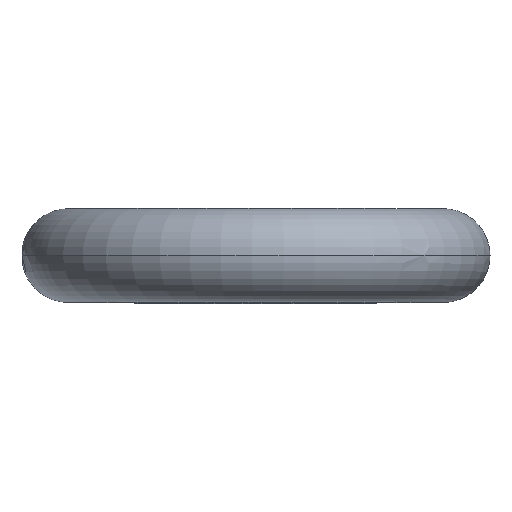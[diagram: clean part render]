
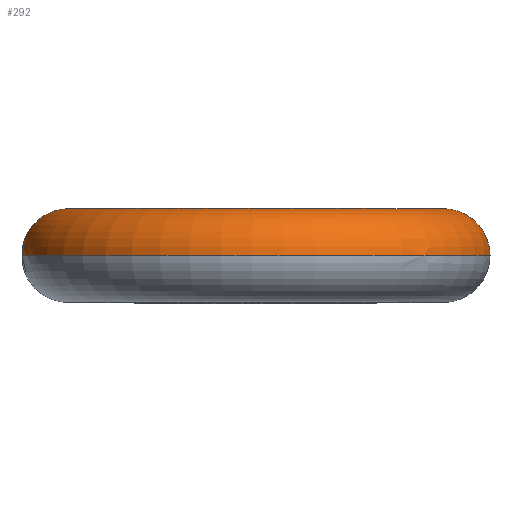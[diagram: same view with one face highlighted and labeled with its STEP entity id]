
A CAD part, top view. The second image highlights one B-rep face of the part: STEP entity #292.
In plain terms, the highlighted toroidal (fillet/blend) face has major radius 12 mm and minor radius 3 mm.
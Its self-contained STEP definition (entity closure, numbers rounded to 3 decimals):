
#8=CARTESIAN_POINT('',(-11.407,0.,31.273));
#9=DIRECTION('',(0.311,0.,-0.951));
#10=DIRECTION('',(-0.951,0.,-0.311));
#11=AXIS2_PLACEMENT_3D('',#8,#9,#10);
#22=CARTESIAN_POINT('',(11.407,0.,31.273));
#23=DIRECTION('',(0.311,0.,0.951));
#24=DIRECTION('',(0.951,0.,-0.311));
#25=AXIS2_PLACEMENT_3D('',#22,#23,#24);
#27=CARTESIAN_POINT('',(14.258,0.,30.341));
#28=CARTESIAN_POINT('',(14.502,0.,31.089));
#29=CARTESIAN_POINT('',(14.873,0.,32.622));
#30=CARTESIAN_POINT('',(15.062,0.,34.98));
#31=CARTESIAN_POINT('',(14.879,0.,37.338));
#32=CARTESIAN_POINT('',(14.33,0.,39.639));
#33=CARTESIAN_POINT('',(13.427,0.,41.825));
#34=CARTESIAN_POINT('',(12.193,0.,43.843));
#35=CARTESIAN_POINT('',(10.658,0.,45.643));
#36=CARTESIAN_POINT('',(8.86,0.,47.181));
#37=CARTESIAN_POINT('',(6.843,0.,48.417));
#38=CARTESIAN_POINT('',(4.658,0.,49.323));
#39=CARTESIAN_POINT('',(2.358,0.,49.876));
#40=CARTESIAN_POINT('',(0.,0.,50.062));
#41=CARTESIAN_POINT('',(-2.358,0.,49.876));
#42=CARTESIAN_POINT('',(-4.658,0.,49.323));
#43=CARTESIAN_POINT('',(-6.843,0.,48.417));
#44=CARTESIAN_POINT('',(-8.86,0.,47.181));
#45=CARTESIAN_POINT('',(-10.658,0.,45.643));
#46=CARTESIAN_POINT('',(-12.193,0.,43.843));
#47=CARTESIAN_POINT('',(-13.427,0.,41.825));
#48=CARTESIAN_POINT('',(-14.33,0.,39.639));
#49=CARTESIAN_POINT('',(-14.879,0.,37.338));
#50=CARTESIAN_POINT('',(-15.062,0.,34.98));
#51=CARTESIAN_POINT('',(-14.873,0.,32.622));
#52=CARTESIAN_POINT('',(-14.502,0.,31.089));
#53=CARTESIAN_POINT('',(-14.258,0.,30.341));
#174=CARTESIAN_POINT('',(8.555,0.,32.205));
#175=CARTESIAN_POINT('',(8.722,0.,32.717));
#176=CARTESIAN_POINT('',(8.965,0.,33.772));
#177=CARTESIAN_POINT('',(9.04,0.,35.394));
#178=CARTESIAN_POINT('',(8.824,0.,37.003));
#179=CARTESIAN_POINT('',(8.324,0.,38.548));
#180=CARTESIAN_POINT('',(7.556,0.,39.978));
#181=CARTESIAN_POINT('',(6.545,0.,41.249));
#182=CARTESIAN_POINT('',(5.323,0.,42.318));
#183=CARTESIAN_POINT('',(3.929,0.,43.151));
#184=CARTESIAN_POINT('',(2.409,0.,43.722));
#185=CARTESIAN_POINT('',(0.812,0.,44.012));
#186=CARTESIAN_POINT('',(-0.812,0.,44.012));
#187=CARTESIAN_POINT('',(-2.409,0.,43.722));
#188=CARTESIAN_POINT('',(-3.929,0.,43.151));
#189=CARTESIAN_POINT('',(-5.323,0.,42.318));
#190=CARTESIAN_POINT('',(-6.545,0.,41.249));
#191=CARTESIAN_POINT('',(-7.556,0.,39.978));
#192=CARTESIAN_POINT('',(-8.324,0.,38.548));
#193=CARTESIAN_POINT('',(-8.824,0.,37.003));
#194=CARTESIAN_POINT('',(-9.04,0.,35.394));
#195=CARTESIAN_POINT('',(-8.965,0.,33.772));
#196=CARTESIAN_POINT('',(-8.722,0.,32.717));
#197=CARTESIAN_POINT('',(-8.555,0.,32.205));
#227=CARTESIAN_POINT('',(14.258,0.,30.341));
#228=CARTESIAN_POINT('',(8.555,0.,32.205));
#229=VERTEX_POINT('',#227);
#230=VERTEX_POINT('',#228);
#235=CARTESIAN_POINT('',(-14.258,0.,30.341));
#236=CARTESIAN_POINT('',(-8.555,0.,32.205));
#237=VERTEX_POINT('',#235);
#238=VERTEX_POINT('',#236);
#278=CARTESIAN_POINT('',(0.,0.,35.));
#279=DIRECTION('',(0.,-1.,0.));
#280=DIRECTION('',(-0.951,0.,0.311));
#281=AXIS2_PLACEMENT_3D('',#278,#279,#280);
#282=TOROIDAL_SURFACE('',#281,12.,3.);
#284=ORIENTED_EDGE('',*,*,#283,.F.);
#286=ORIENTED_EDGE('',*,*,#285,.T.);
#287=ORIENTED_EDGE('',*,*,#268,.T.);
#289=ORIENTED_EDGE('',*,*,#288,.F.);
#290=EDGE_LOOP('',(#284,#286,#287,#289));
#291=FACE_OUTER_BOUND('',#290,.F.);
#292=ADVANCED_FACE('',(#291),#282,.T.);
#12=CIRCLE('',#11,3.);
#26=CIRCLE('',#25,3.);
#54=B_SPLINE_CURVE_WITH_KNOTS('',3,(#27,#28,#29,#30,#31,#32,#33,#34,#35,#36,#37,
#38,#39,#40,#41,#42,#43,#44,#45,#46,#47,#48,#49,#50,#51,#52,#53),.UNSPECIFIED.,
.F.,.F.,(4,1,1,1,1,1,1,1,1,1,1,1,1,1,1,1,1,1,1,1,1,1,1,1,4),(0.,
0.042,0.083,0.125,0.167,0.208,
0.25,0.292,0.333,0.375,0.417,
0.458,0.5,0.542,0.583,0.625,
0.667,0.708,0.75,0.792,0.833,
0.875,0.917,0.958,1.),.UNSPECIFIED.);
#198=B_SPLINE_CURVE_WITH_KNOTS('',3,(#174,#175,#176,#177,#178,#179,#180,#181,
#182,#183,#184,#185,#186,#187,#188,#189,#190,#191,#192,#193,#194,#195,#196,
#197),.UNSPECIFIED.,.F.,.F.,(4,1,1,1,1,1,1,1,1,1,1,1,1,1,1,1,1,1,1,1,1,4),(0.,
0.048,0.095,0.143,0.19,
0.238,0.286,0.333,0.381,
0.429,0.476,0.524,0.571,
0.619,0.667,0.714,0.762,
0.81,0.857,0.905,0.952,1.),
.UNSPECIFIED.);
#268=EDGE_CURVE('',#237,#238,#12,.T.);
#283=EDGE_CURVE('',#229,#230,#26,.T.);
#285=EDGE_CURVE('',#229,#237,#54,.T.);
#288=EDGE_CURVE('',#230,#238,#198,.T.);
